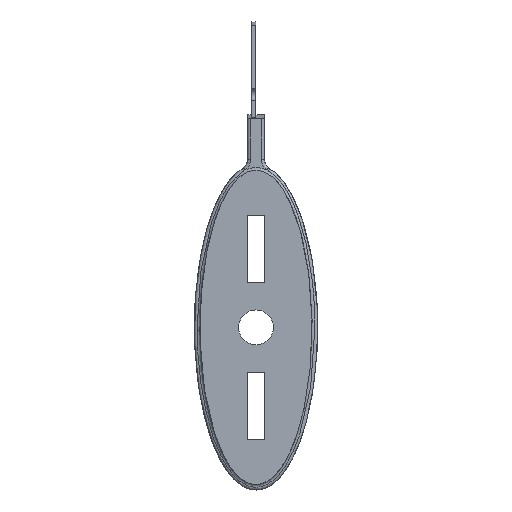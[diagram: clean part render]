
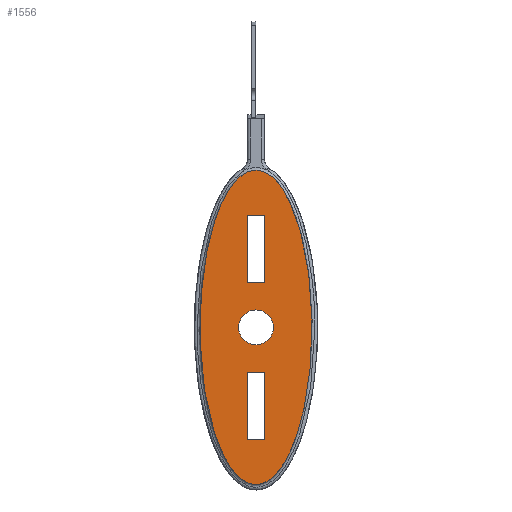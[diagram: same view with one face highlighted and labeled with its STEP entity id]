
A CAD part, front view. The second image highlights one B-rep face of the part: STEP entity #1556.
In plain terms, the highlighted planar face has unit normal (0, -1, 0).
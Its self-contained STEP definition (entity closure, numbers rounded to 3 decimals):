
#13=ELLIPSE($,#1689,14.,5.);
#142=FACE_BOUND($,#385,.T.);
#143=FACE_BOUND($,#386,.T.);
#144=FACE_BOUND($,#387,.T.);
#219=CIRCLE($,#1692,1.55);
#291=FACE_OUTER_BOUND($,#384,.T.);
#384=EDGE_LOOP($,(#1318));
#385=EDGE_LOOP($,(#1319));
#386=EDGE_LOOP($,(#1320,#1321,#1322,#1323));
#387=EDGE_LOOP($,(#1324,#1325,#1326,#1327));
#461=LINE($,#4274,#545);
#463=LINE($,#4279,#547);
#464=LINE($,#4281,#548);
#465=LINE($,#4283,#549);
#466=LINE($,#4284,#550);
#467=LINE($,#4286,#551);
#468=LINE($,#4288,#552);
#469=LINE($,#4289,#553);
#545=VECTOR($,#2019,6.);
#547=VECTOR($,#2023,1.55);
#548=VECTOR($,#2024,6.);
#549=VECTOR($,#2025,1.55);
#550=VECTOR($,#2026,6.);
#551=VECTOR($,#2027,1.55);
#552=VECTOR($,#2028,1.55);
#553=VECTOR($,#2029,6.);
#690=VERTEX_POINT($,#4258);
#692=VERTEX_POINT($,#4265);
#695=VERTEX_POINT($,#4271);
#696=VERTEX_POINT($,#4273);
#697=VERTEX_POINT($,#4277);
#698=VERTEX_POINT($,#4278);
#699=VERTEX_POINT($,#4280);
#700=VERTEX_POINT($,#4282);
#701=VERTEX_POINT($,#4285);
#702=VERTEX_POINT($,#4287);
#901=EDGE_CURVE($,#690,#690,#13,.T.);
#903=EDGE_CURVE($,#692,#692,#219,.T.);
#906=EDGE_CURVE($,#696,#695,#461,.T.);
#908=EDGE_CURVE($,#697,#698,#463,.T.);
#909=EDGE_CURVE($,#698,#699,#464,.T.);
#910=EDGE_CURVE($,#699,#700,#465,.T.);
#911=EDGE_CURVE($,#700,#697,#466,.T.);
#912=EDGE_CURVE($,#701,#696,#467,.T.);
#913=EDGE_CURVE($,#695,#702,#468,.T.);
#914=EDGE_CURVE($,#702,#701,#469,.T.);
#1318=ORIENTED_EDGE($,*,*,#901,.T.);
#1319=ORIENTED_EDGE($,*,*,#903,.T.);
#1320=ORIENTED_EDGE($,*,*,#908,.T.);
#1321=ORIENTED_EDGE($,*,*,#909,.T.);
#1322=ORIENTED_EDGE($,*,*,#910,.T.);
#1323=ORIENTED_EDGE($,*,*,#911,.T.);
#1324=ORIENTED_EDGE($,*,*,#912,.T.);
#1325=ORIENTED_EDGE($,*,*,#906,.T.);
#1326=ORIENTED_EDGE($,*,*,#913,.T.);
#1327=ORIENTED_EDGE($,*,*,#914,.T.);
#1387=PLANE($,#1694);
#1556=ADVANCED_FACE($,(#291,#142,#143,#144),#1387,.T.);
#1689=AXIS2_PLACEMENT_3D($,#4261,#2007,#2008);
#1692=AXIS2_PLACEMENT_3D($,#4266,#2013,#2014);
#1694=AXIS2_PLACEMENT_3D($,#4276,#2021,#2022);
#2007=DIRECTION('center_axis',(0.,-1.,0.));
#2008=DIRECTION('ref_axis',(0.,0.,
-1.));
#2013=DIRECTION('center_axis',(0.,1.,0.));
#2014=DIRECTION('ref_axis',(1.,0.,0.));
#2019=DIRECTION($,(0.,0.,1.));
#2021=DIRECTION('center_axis',(0.,-1.,0.));
#2022=DIRECTION('ref_axis',(0.,0.,-1.));
#2023=DIRECTION($,(1.,0.,0.));
#2024=DIRECTION($,(0.,0.,-1.));
#2025=DIRECTION($,(-1.,0.,0.));
#2026=DIRECTION($,(0.,0.,1.));
#2027=DIRECTION($,(-1.,0.,0.));
#2028=DIRECTION($,(1.,0.,0.));
#2029=DIRECTION($,(0.,0.,-1.));
#4258=CARTESIAN_POINT('',(0.,0.,14.));
#4261=CARTESIAN_POINT('Origin',(0.,0.,0.));
#4265=CARTESIAN_POINT('',(-1.55,0.,0.));
#4266=CARTESIAN_POINT('Origin',(0.,0.,0.));
#4271=CARTESIAN_POINT('',(-0.775,0.,10.));
#4273=CARTESIAN_POINT('',(-0.775,0.,4.));
#4274=CARTESIAN_POINT($,(-0.775,0.,5.));
#4276=CARTESIAN_POINT('Origin',(0.,0.,0.));
#4277=CARTESIAN_POINT('',(-0.775,0.,-4.));
#4278=CARTESIAN_POINT('',(0.775,0.,-4.));
#4279=CARTESIAN_POINT($,(0.,0.,-4.));
#4280=CARTESIAN_POINT('',(0.775,0.,-10.));
#4281=CARTESIAN_POINT($,(0.775,0.,-5.));
#4282=CARTESIAN_POINT('',(-0.775,0.,-10.));
#4283=CARTESIAN_POINT($,(-0.388,0.,-10.));
#4284=CARTESIAN_POINT($,(-0.775,0.,-2.));
#4285=CARTESIAN_POINT('',(0.775,0.,4.));
#4286=CARTESIAN_POINT($,(0.,0.,4.));
#4287=CARTESIAN_POINT('',(0.775,0.,10.));
#4288=CARTESIAN_POINT($,(0.388,0.,10.));
#4289=CARTESIAN_POINT($,(0.775,0.,2.));
